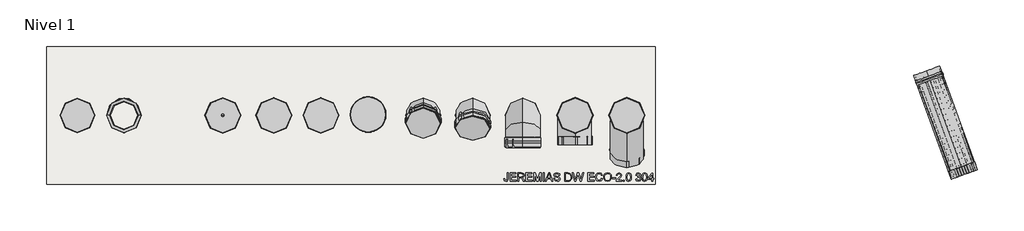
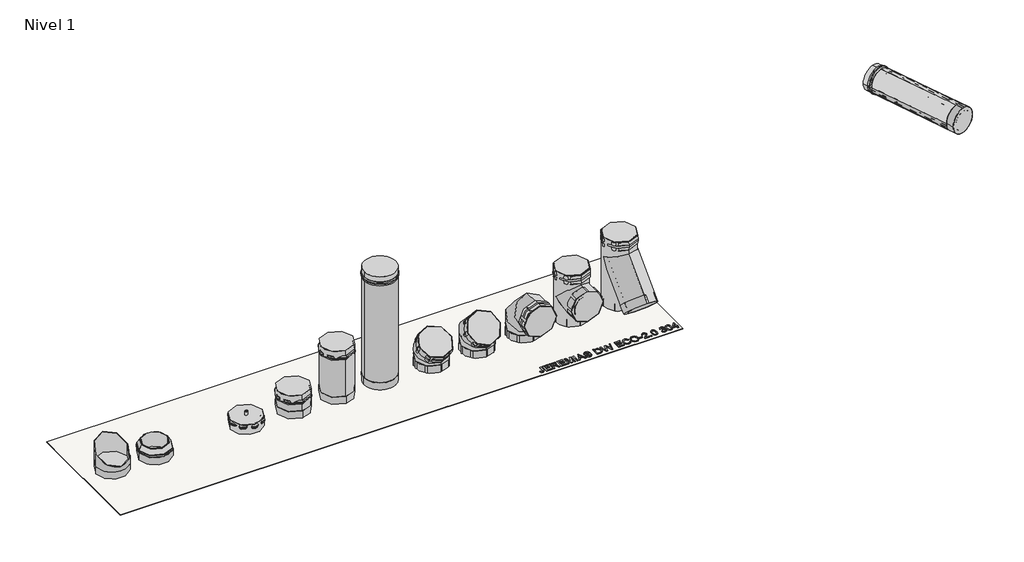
# One storey, incomplete: 24 pipe fittings, 6 valves, 1 pipe segment, 1 proxy, 1 slab.
"""IFC4 building model written with IfcOpenShell, lengths in millimetres."""

from ifc_helpers import new_model, si_unit, point, frame, frame_2d, origin, origin_with_axes, place, context, project, spatial, polyline, circle_curve, trimmed, segment, composite_curve, outline, extrude, transform, mapped, element, save
from components import pipe_fitting_660_6ef6b7b5, generic_e4afd2ad, generic_6cb5bec8, generic_9a809b7e, generic_094d80ac, generic_9bd3fc94, generic_511fdfb4, generic_217080a0, generic_b223704b, generic_ef8c256f, generic_2_eab2cc1d, generic_3_69cca52d, inner_tee_e0705f29, inner_tee_3f265fad, innerelbow_2_ab31b819, innerelbow_2_78ffe8cd, innerelbow_2_19a0c524, innerlength_2873572f, innerlength_3c8baf08, innerlength_c7eef2e4, innerlength_a647f86e, innerlength_2c715587, joint_seal_ffcbe19e, joint_seal_4c32b900

model = new_model("IFC4")

# Units and contexts
model_context = context("Model", 3, world=origin())
ifc_project = project(units=[si_unit("LENGTHUNIT", "METRE", prefix="MILLI")], contexts=[model_context])

# Site, building, storey
site = spatial("IfcSite", under=ifc_project)
building = spatial("IfcBuilding", under=site)
storey = spatial("IfcBuildingStorey", under=building, Name="Nivel 1", Elevation=0.0)

# Proxy
placement = place(None, origin())
element("IfcBuildingElementProxy", 1, Name="600mm Arial", ObjectType="600mm Arial", at=placement, inside=storey, context=model_context, shape_type="SweptSolid", body=[
    extrude(outline(polyline([(-483.9097151, 1447.114897), (-476.3754919, 1448.0861055), (-473.8003179, 1439.1833612), (-467.443317, 1436.7847706), (-462.2856115, 1438.145934), (-459.2984096, 1441.8541845), (-458.4817116, 1449.322189), (-458.4817116, 1490.4661113), (-450.9474884, 1490.4661113), (-450.9474884, 1449.4546265), (-452.7648254, 1437.7486214), (-458.5332151, 1431.4284087), (-467.7964837, 1429.2505473), (-479.8777285, 1433.7460653), (-483.9097151, 1447.114897)])), origin_with_axes(), (0.0, 0.0, 1.0), 5.0),
    extrude(outline(polyline([(-437.7625977, 1430.1923252), (-437.7625977, 1490.4661113), (-394.4408139, 1490.4661113), (-394.4408139, 1482.9318881), (-430.2283744, 1482.9318881), (-430.2283744, 1465.0381078), (-396.3243697, 1465.0381078), (-396.3243697, 1457.5038846), (-430.2283744, 1457.5038846), (-430.2283744, 1437.7265485), (-393.499036, 1437.7265485), (-393.499036, 1430.1923252), (-437.7625977, 1430.1923252)])), origin_with_axes(), (0.0, 0.0, 1.0), 5.0),
    extrude(outline(polyline([(-382.1977011, 1430.1923252), (-382.1977011, 1490.4661113), (-356.2252322, 1490.4661113), (-344.1660604, 1488.8400729), (-337.5736151, 1483.0863985), (-335.1088057, 1473.9702827), (-339.1922959, 1463.1104062), (-351.8106483, 1457.5038846), (-347.5285019, 1454.2812383), (-341.4216608, 1446.5262858), (-331.3711246, 1430.1923252), (-340.1267161, 1430.1923252), (-347.9699603, 1442.6855978), (-353.635343, 1450.955585), (-357.6158262, 1454.8624918), (-361.1989968, 1456.2972316), (-365.5694349, 1456.5621066), (-374.6634778, 1456.5621066), (-374.6634778, 1430.1923252), (-382.1977011, 1430.1923252)]), holes=[polyline([(-374.6634778, 1464.0963299), (-357.7997672, 1464.0963299), (-349.1986861, 1465.1631877), (-344.3132132, 1468.5771326), (-342.643029, 1473.6906923), (-345.8288871, 1480.3272835), (-355.9014961, 1482.9318881), (-374.6634778, 1482.9318881), (-374.6634778, 1464.0963299)])]), origin_with_axes(), (0.0, 0.0, 1.0), 5.0),
    extrude(outline(polyline([(-321.923915, 1430.1923252), (-321.923915, 1490.4661113), (-278.6021313, 1490.4661113), (-278.6021313, 1482.9318881), (-314.3896917, 1482.9318881), (-314.3896917, 1465.0381078), (-280.4856871, 1465.0381078), (-280.4856871, 1457.5038846), (-314.3896917, 1457.5038846), (-314.3896917, 1437.7265485), (-277.6603534, 1437.7265485), (-277.6603534, 1430.1923252), (-321.923915, 1430.1923252)])), origin_with_axes(), (0.0, 0.0, 1.0), 5.0),
    extrude(outline(polyline([(-266.3590185, 1430.1923252), (-266.3590185, 1490.4661113), (-253.3948569, 1490.4661113), (-241.0634525, 1447.9830985), (-238.5765702, 1439.1097848), (-235.883674, 1448.7188625), (-223.7582834, 1490.4661113), (-210.7941219, 1490.4661113), (-210.7941219, 1430.1923252), (-218.3283452, 1430.1923252), (-218.3283452, 1482.9318881), (-233.4703681, 1430.1923252), (-243.6827723, 1430.1923252), (-258.8247952, 1482.9318881), (-258.8247952, 1430.1923252), (-266.3590185, 1430.1923252)])), origin_with_axes(), (0.0, 0.0, 1.0), 5.0),
    extrude(outline(polyline([(-196.6674533, 1430.1923252), (-196.6674533, 1490.4661113), (-189.13323, 1490.4661113), (-189.13323, 1430.1923252), (-196.6674533, 1430.1923252)])), origin_with_axes(), (0.0, 0.0, 1.0), 5.0),
    extrude(outline(polyline([(-181.083972, 1430.1923252), (-157.0244895, 1490.4661113), (-150.6086275, 1490.4661113), (-126.549145, 1430.1923252), (-134.5101114, 1430.1923252), (-141.4115776, 1449.0278834), (-166.2362547, 1449.0278834), (-173.1230056, 1430.1923252), (-181.083972, 1430.1923252)]), holes=[polyline([(-163.469782, 1456.5621066), (-144.1633349, 1456.5621066), (-149.5932732, 1471.3803934), (-153.8165585, 1482.9318881), (-157.5689548, 1472.675338), (-163.469782, 1456.5621066)])]), origin_with_axes(), (0.0, 0.0, 1.0), 5.0),
    extrude(outline(polyline([(-121.3252207, 1450.9114392), (-113.7909974, 1450.9114392), (-111.3629763, 1443.3698583), (-105.4327185, 1438.6021076), (-96.3975367, 1436.7847706), (-88.524862, 1438.1606492), (-83.4407328, 1441.9424762), (-81.7705486, 1446.9971748), (-83.0213473, 1451.6987067), (-88.1422647, 1455.1200092), (-99.1125058, 1457.9968464), (-110.9215179, 1461.7124546), (-117.3300222, 1467.3189762), (-119.4416649, 1474.8090536), (-116.8297027, 1483.3365583), (-109.1998301, 1489.3551077), (-98.0309327, 1491.4078892), (-86.1115561, 1489.2594584), (-78.165305, 1482.9466033), (-75.1781032, 1473.514109), (-82.7123265, 1473.514109), (-86.9797576, 1481.2543462), (-97.7366272, 1483.873666), (-108.5229272, 1481.2837767), (-111.9074416, 1475.0297828), (-109.508851, 1469.8058585), (-97.2068771, 1465.5972884), (-83.8748336, 1461.8154615), (-76.5834124, 1455.7086204), (-74.2363253, 1447.1884734), (-76.9365791, 1438.1753645), (-84.7062469, 1431.5976345), (-96.1032311, 1429.2505473), (-109.5603545, 1431.7815755), (-118.0731438, 1439.4040904), (-121.3252207, 1450.9114392)])), origin_with_axes(), (0.0, 0.0, 1.0), 5.0),
    extrude(outline(polyline([(-39.3905427, 1430.1923252), (-39.3905427, 1490.4661113), (-18.5978523, 1490.4661113), (-7.8409828, 1489.5979098), (1.0176156, 1485.2863328), (8.1545263, 1474.985637), (10.5236864, 1460.6529544), (8.9197209, 1448.4907757), (4.7994425, 1439.7131113), (-0.7040721, 1434.2463848), (-7.9072016, 1431.2223948), (-17.5972133, 1430.1923252), (-39.3905427, 1430.1923252)]), holes=[polyline([(-31.8563195, 1437.7265485), (-18.5242759, 1437.7265485), (-8.8269066, 1438.8154792), (-3.2351002, 1441.8909727), (1.3487094, 1449.3736925), (2.9894631, 1460.7706767), (-0.2258255, 1475.0444981), (-8.0469967, 1481.7252351), (-18.7302899, 1482.9318881), (-31.8563195, 1482.9318881), (-31.8563195, 1437.7265485)])]), origin_with_axes(), (0.0, 0.0, 1.0), 5.0),
    extrude(outline(polyline([(31.6695435, 1430.1923252), (15.2325759, 1490.4661113), (23.0022437, 1490.4661113), (32.537745, 1450.8525781), (35.4808009, 1438.6241806), (38.6298708, 1449.4399112), (50.578678, 1490.4661113), (61.777006, 1490.4661113), (70.459021, 1460.7265308), (76.9190289, 1438.6241806), (79.7737932, 1450.4994114), (89.3975862, 1490.4661113), (97.1672539, 1490.4661113), (80.7155711, 1430.1923252), (72.666313, 1430.1923252), (58.2159082, 1476.6926094), (56.1999149, 1483.1820478), (53.9337618, 1475.3682342), (40.7635864, 1430.1923252), (31.6695435, 1430.1923252)])), origin_with_axes(), (0.0, 0.0, 1.0), 5.0),
    extrude(outline(polyline([(128.2459248, 1430.1923252), (128.2459248, 1490.4661113), (171.5677086, 1490.4661113), (171.5677086, 1482.9318881), (135.7801481, 1482.9318881), (135.7801481, 1465.0381078), (169.6841528, 1465.0381078), (169.6841528, 1457.5038846), (135.7801481, 1457.5038846), (135.7801481, 1437.7265485), (172.5094865, 1437.7265485), (172.5094865, 1430.1923252), (128.2459248, 1430.1923252)])), origin_with_axes(), (0.0, 0.0, 1.0), 5.0),
    extrude(outline(polyline([(226.1908272, 1451.6177726), (233.7250505, 1449.6753557), (224.7928757, 1434.4818293), (209.0180957, 1429.2505473), (193.3389651, 1433.2089576), (184.1419152, 1444.6721606), (180.9854877, 1460.7853919), (184.553943, 1477.1634984), (194.7001285, 1487.7805728), (209.1799638, 1491.4078892), (224.2704832, 1486.713715), (232.7832726, 1473.4993937), (225.2490493, 1471.7041296), (219.0686318, 1480.9673982), (208.8856582, 1483.873666), (197.0987191, 1480.6510197), (190.440055, 1471.9984352), (188.5197109, 1460.8001072), (190.7932217, 1447.8212304), (197.8712713, 1439.5291703), (208.2676164, 1436.7847706), (219.7970382, 1440.5224517), (226.1908272, 1451.6177726)])), origin_with_axes(), (0.0, 0.0, 1.0), 5.0),
    extrude(outline(polyline([(241.2592738, 1459.5345932), (243.2679095, 1472.8629579), (249.2938165, 1482.9466033), (258.4945452, 1489.2925678), (270.0276458, 1491.4078892), (285.0225159, 1487.4347637), (295.2054895, 1476.354158), (298.7077261, 1460.2262113), (295.0215485, 1443.8775355), (284.5736999, 1432.9587978), (269.9834999, 1429.2505473), (254.8267617, 1433.3487527), (244.7026492, 1444.5323654), (241.2592738, 1459.5345932)]), holes=[polyline([(248.793497, 1459.4610168), (250.2999738, 1450.0322012), (254.8194041, 1442.8474659), (261.6123451, 1438.3004444), (269.9393541, 1436.7847706), (278.3877641, 1438.3151597), (285.1917416, 1442.906327), (289.6780626, 1450.3117915), (291.1735029, 1460.2850724), (288.6130442, 1472.7194839), (281.1303244, 1480.9526829), (270.0717916, 1483.873666), (255.0769215, 1478.2450714), (250.3643531, 1470.7347605), (248.793497, 1459.4610168)])]), origin_with_axes(), (0.0, 0.0, 1.0), 5.0),
    extrude(outline(polyline([(304.3583936, 1448.0861055), (304.3583936, 1455.6203287), (327.9028413, 1455.6203287), (327.9028413, 1448.0861055), (304.3583936, 1448.0861055)])), origin_with_axes(), (0.0, 0.0, 1.0), 5.0),
    extrude(outline(polyline([(373.1081808, 1437.7265485), (373.1081808, 1430.1923252), (333.5535087, 1430.1923252), (334.3628491, 1435.386819), (338.9393011, 1443.3845736), (348.3717955, 1452.1180921), (361.3801028, 1464.6702258), (364.6321797, 1473.2050881), (361.5640438, 1480.113912), (353.551574, 1482.9318881), (345.2006527, 1480.1801307), (342.0295099, 1472.5723311), (334.4952866, 1473.514109), (340.2710339, 1486.1251038), (353.7134421, 1490.4661113), (367.199996, 1485.6394995), (372.1664029, 1473.6612618), (370.8273125, 1466.5169934), (366.3759403, 1459.129923), (355.5822826, 1448.8071542), (346.9149828, 1441.5598789), (343.5157531, 1437.7265485), (373.1081808, 1437.7265485)])), origin_with_axes(), (0.0, 0.0, 1.0), 5.0),
    extrude(outline(polyline([(384.4095157, 1430.1923252), (384.4095157, 1437.7265485), (391.943739, 1437.7265485), (391.943739, 1430.1923252), (384.4095157, 1430.1923252)])), origin_with_axes(), (0.0, 0.0, 1.0), 5.0),
    extrude(outline(polyline([(404.1868518, 1459.843614), (406.4015014, 1477.1855713), (412.9792315, 1487.1846039), (423.9641878, 1490.4661113), (432.7639252, 1488.5236944), (438.8413357, 1482.9245304), (442.3730029, 1474.0070709), (443.7415239, 1459.843614), (441.5489472, 1442.5752332), (434.9932901, 1432.5541276), (423.9641878, 1429.2505473), (416.135659, 1430.6852871), (410.190686, 1434.9895064), (405.6878103, 1445.1835165), (404.1868518, 1459.843614)]), holes=[polyline([(411.7210751, 1459.8583293), (415.2527422, 1441.147851), (423.9641878, 1436.7847706), (432.6756335, 1441.1625663), (436.2073006, 1459.8583293), (432.7933557, 1478.355436), (423.8758962, 1482.9318881), (415.3704644, 1478.8999014), (411.7210751, 1459.8583293)])]), origin_with_axes(), (0.0, 0.0, 1.0), 5.0),
    extrude(outline(polyline([(473.878417, 1446.2025497), (481.4126402, 1447.1443276), (485.5697068, 1439.2127918), (493.3467321, 1436.7847706), (502.4996362, 1440.1251391), (505.8988658, 1448.3951264), (502.5290667, 1456.186867), (493.9647739, 1459.2697181), (488.6819884, 1458.4456625), (489.5207594, 1465.9798857), (499.2769899, 1468.0547402), (503.0735321, 1474.7060466), (500.3217748, 1480.5995162), (493.2290099, 1482.9318881), (486.0479534, 1480.5774433), (482.3544181, 1473.514109), (474.8201949, 1474.4558869), (480.9858971, 1486.2722566), (492.9641349, 1490.4661113), (502.0508201, 1488.3986145), (508.407821, 1482.7479471), (510.6077554, 1475.147505), (508.5181856, 1468.201893), (502.3377681, 1463.2134131), (510.5488942, 1458.0630652), (513.4330891, 1448.2626888), (507.6646994, 1434.7834925), (493.0818571, 1429.2505473), (479.8675358, 1433.9741521), (473.878417, 1446.2025497)])), origin_with_axes(), (0.0, 0.0, 1.0), 5.0),
    extrude(outline(polyline([(520.0255344, 1459.843614), (522.240184, 1477.1855713), (528.8179141, 1487.1846039), (539.8028705, 1490.4661113), (548.6026078, 1488.5236944), (554.6800184, 1482.9245304), (558.2116855, 1474.0070709), (559.5802066, 1459.843614), (557.3876299, 1442.5752332), (550.8319727, 1432.5541276), (539.8028705, 1429.2505473), (531.9743416, 1430.6852871), (526.0293686, 1434.9895064), (521.526493, 1445.1835165), (520.0255344, 1459.843614)]), holes=[polyline([(527.5597577, 1459.8583293), (531.0914248, 1441.147851), (539.8028705, 1436.7847706), (548.5143161, 1441.1625663), (552.0459833, 1459.8583293), (548.6320384, 1478.355436), (539.7145788, 1482.9318881), (531.2091471, 1478.8999014), (527.5597577, 1459.8583293)])]), origin_with_axes(), (0.0, 0.0, 1.0), 5.0),
    extrude(outline(polyline([(590.6588775, 1430.1923252), (590.6588775, 1444.3189938), (563.3473182, 1444.3189938), (563.3473182, 1451.8532171), (592.5424333, 1489.5243334), (598.1931008, 1489.5243334), (598.1931008, 1451.8532171), (605.727324, 1451.8532171), (605.727324, 1444.3189938), (598.1931008, 1444.3189938), (598.1931008, 1430.1923252), (590.6588775, 1430.1923252)]), holes=[polyline([(590.6588775, 1451.8532171), (590.6588775, 1475.1327898), (572.6179445, 1451.8532171), (590.6588775, 1451.8532171)])]), origin_with_axes(), (0.0, 0.0, 1.0), 5.0),
])

# Pipe fittings
pipe_fitting_660_shape = pipe_fitting_660_6ef6b7b5(model_context)
element("IfcPipeFitting", 2, ObjectType="CADS_Jeremias_HorizontalTerminalWithGrid_Socket : 660", at=placement, inside=storey, context=model_context, shape_type="MappedRepresentation", body=[
    mapped(pipe_fitting_660_shape, transform((-3578.0375205, 1907.6764061, 60.0), x_axis=(0.0, 0.0, 1.0), y_axis=(1.0, 0.0, 0.0), z_axis=(0.0, 1.0, 0.0))),
])
generic_shape = generic_e4afd2ad(model_context)
element("IfcPipeFitting", 3, ObjectType="CADS_Jeremias_Length_Socket : Generic", at=placement, inside=storey, context=model_context, shape_type="MappedRepresentation", body=[
    mapped(generic_shape, transform((2880.748552, 1423.1702093, 901.4449459), x_axis=(-0.342020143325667, 0.939692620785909, 0.0), y_axis=(-0.939692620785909, -0.342020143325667, 0.0), z_axis=(0.0, 0.0, 1.0))),
])
element("IfcPipeFitting", 4, ObjectType="CADS_Jeremias_Length_Socket : Generic", at=placement, inside=storey, context=model_context, shape_type="MappedRepresentation", body=[
    mapped(generic_shape, transform((2880.748552, 1423.1702093, 901.4449459), x_axis=(-0.342020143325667, 0.939692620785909, 0.0), y_axis=(-0.939692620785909, -0.342020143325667, 0.0), z_axis=(0.0, 0.0, 1.0))),
])
generic_2_shape = generic_6cb5bec8(model_context)
element("IfcPipeFitting", 5, ObjectType="CADS_Jeremias_Length_Socket : Generic", at=placement, inside=storey, context=model_context, shape_type="MappedRepresentation", body=[
    mapped(generic_2_shape, transform((-1810.7973729, 1907.6764061, -60.0), x_axis=(0.0, 0.0, 1.0), y_axis=(0.0, 1.0, 0.0), z_axis=(-1.0, 0.0, 0.0))),
])
generic_3_shape = generic_9a809b7e(model_context)
element("IfcPipeFitting", 6, ObjectType="CADS_Jeremias_Length_Socket : Generic", at=placement, inside=storey, context=model_context, shape_type="MappedRepresentation", body=[
    mapped(generic_3_shape, transform((-1467.9683054, 1914.1121678, -60.0), x_axis=(0.0, 0.0, 1.0), y_axis=(1.0, 0.0, 0.0), z_axis=(0.0, 1.0, 0.0))),
])
generic_4_shape = generic_094d80ac(model_context)
element("IfcPipeFitting", 7, ObjectType="CADS_Jeremias_Length_Socket : Generic", at=placement, inside=storey, context=model_context, shape_type="MappedRepresentation", body=[
    mapped(generic_4_shape, transform((-2152.3224564, 1907.6764061, -60.0), x_axis=(0.0, 0.0, 1.0), y_axis=(0.0, 1.0, 0.0), z_axis=(-1.0, 0.0, 0.0))),
])
generic_5_shape = generic_9bd3fc94(model_context)
element("IfcPipeFitting", 8, ObjectType="CADS_Jeremias_Elbow_Socket1 : Generic", at=placement, inside=storey, context=model_context, shape_type="MappedRepresentation", body=[
    mapped(generic_5_shape, transform((-708.7750658, 1907.6764061, 131.7766953), x_axis=(0.0, 0.0, 1.0), y_axis=(0.0, -1.0, 0.0), z_axis=(1.0, 0.0, 0.0))),
])
generic_6_shape = generic_511fdfb4(model_context)
element("IfcPipeFitting", 9, ObjectType="CADS_Jeremias_Elbow_Socket1 : Generic", at=placement, inside=storey, context=model_context, shape_type="MappedRepresentation", body=[
    mapped(generic_6_shape, transform((-1067.9851989, 1907.6764061, 113.4936491), x_axis=(0.0, 0.0, 1.0), y_axis=(0.0, -1.0, 0.0), z_axis=(1.0, 0.0, 0.0))),
])
generic_7_shape = generic_217080a0(model_context)
element("IfcPipeFitting", 10, ObjectType="CADS_Jeremias_Tee1 : Generic", at=placement, inside=storey, context=model_context, shape_type="MappedRepresentation", body=[
    mapped(generic_7_shape, transform((409.8112209, 1907.6764061, 411.7766953), x_axis=(0.0, 0.0, 1.0), y_axis=(0.0, 1.0, 0.0), z_axis=(-1.0, 0.0, 0.0))),
])
generic_8_shape = generic_b223704b(model_context)
element("IfcPipeFitting", 11, ObjectType="CADS_Jeremias_TeeCapWithDrain_Socket : Generic", at=placement, inside=storey, context=model_context, shape_type="MappedRepresentation", body=[
    mapped(generic_8_shape, transform((-2522.4031159, 1907.6764061, 1.559676), x_axis=(0.0, 0.0, 1.0), y_axis=(-1.0, 0.0, 0.0), z_axis=(0.0, -1.0, 0.0))),
])
generic_9_shape = generic_ef8c256f(model_context)
element("IfcPipeFitting", 12, ObjectType="CADS_Jeremias_TopStub_Socket : Generic", at=placement, inside=storey, context=model_context, shape_type="MappedRepresentation", body=[
    mapped(generic_9_shape, transform((-3240.6497047, 1907.6764061, 60.0), x_axis=(0.0, 0.0, 1.0), y_axis=(1.0, 0.0, 0.0), z_axis=(0.0, 1.0, 0.0))),
])
generic_2_2_shape = generic_2_eab2cc1d(model_context)
element("IfcPipeFitting", 13, ObjectType="CADS_Jeremias_Tee1 : Generic 2", at=placement, inside=storey, context=model_context, shape_type="MappedRepresentation", body=[
    mapped(generic_2_2_shape, transform((34.0102676, 1907.6764061, 213.0), x_axis=(0.0, 0.0, 1.0), y_axis=(0.0, 1.0, 0.0), z_axis=(-1.0, 0.0, 0.0))),
])
generic_3_2_shape = generic_3_69cca52d(model_context)
element("IfcPipeFitting", 14, ObjectType="CADS_Jeremias_Elbow_Socket1 : Generic 3", at=placement, inside=storey, context=model_context, shape_type="MappedRepresentation", body=[
    mapped(generic_3_2_shape, transform((-345.0722887, 1907.6764061, 233.2842712), x_axis=(0.0, 0.0, 1.0), y_axis=(0.0, -1.0, 0.0), z_axis=(1.0, 0.0, 0.0))),
])
inner_tee_shape = inner_tee_e0705f29(model_context)
element("IfcPipeFitting", 15, ObjectType="CADS_Jeremias_InnerTee : Inner Tee", at=placement, inside=storey, context=model_context, shape_type="MappedRepresentation", body=[
    mapped(inner_tee_shape, transform((34.0102676, 1907.6764061, 213.0), x_axis=(0.0, 0.0, 1.0), y_axis=(0.0, 1.0, 0.0), z_axis=(-1.0, 0.0, 0.0))),
])
inner_tee_2_shape = inner_tee_3f265fad(model_context)
element("IfcPipeFitting", 16, ObjectType="CADS_Jeremias_InnerTee : Inner Tee", at=placement, inside=storey, context=model_context, shape_type="MappedRepresentation", body=[
    mapped(inner_tee_2_shape, transform((409.8112209, 1907.6764061, 411.7766953), x_axis=(0.0, 0.0, 1.0), y_axis=(0.0, 1.0, 0.0), z_axis=(-1.0, 0.0, 0.0))),
])
innerelbow_2_shape = innerelbow_2_ab31b819(model_context)
element("IfcPipeFitting", 17, ObjectType="CADS_Jeremias_InnerElbowSocket1 : InnerElbow 2", at=placement, inside=storey, context=model_context, shape_type="MappedRepresentation", body=[
    mapped(innerelbow_2_shape, transform((-345.0722887, 1907.6764061, 233.2842712), x_axis=(0.0, 0.0, 1.0), y_axis=(0.0, -1.0, 0.0), z_axis=(1.0, 0.0, 0.0))),
])
innerelbow_2_2_shape = innerelbow_2_78ffe8cd(model_context)
element("IfcPipeFitting", 18, ObjectType="CADS_Jeremias_InnerElbowSocket1 : InnerElbow 2", at=placement, inside=storey, context=model_context, shape_type="MappedRepresentation", body=[
    mapped(innerelbow_2_2_shape, transform((-708.7750658, 1907.6764061, 131.7766953), x_axis=(0.0, 0.0, 1.0), y_axis=(0.0, -1.0, 0.0), z_axis=(1.0, 0.0, 0.0))),
])
innerelbow_2_3_shape = innerelbow_2_19a0c524(model_context)
element("IfcPipeFitting", 19, ObjectType="CADS_Jeremias_InnerElbowSocket1 : InnerElbow 2", at=placement, inside=storey, context=model_context, shape_type="MappedRepresentation", body=[
    mapped(innerelbow_2_3_shape, transform((-1067.9851989, 1907.6764061, 113.4936491), x_axis=(0.0, 0.0, 1.0), y_axis=(0.0, -1.0, 0.0), z_axis=(1.0, 0.0, 0.0))),
])
innerlength_shape = innerlength_2873572f(model_context)
element("IfcPipeFitting", 20, ObjectType="CADS_Jeremias_InnerLength : InnerLength", at=placement, inside=storey, context=model_context, shape_type="MappedRepresentation", body=[
    mapped(innerlength_shape, transform((-1810.7973729, 1907.6764061, 0.0), x_axis=(0.0, 0.0, 1.0), y_axis=(0.0, 1.0, 0.0), z_axis=(-1.0, 0.0, 0.0))),
])
innerlength_2_shape = innerlength_3c8baf08(model_context)
element("IfcPipeFitting", 21, ObjectType="CADS_Jeremias_InnerLength : InnerLength", at=placement, inside=storey, context=model_context, shape_type="MappedRepresentation", body=[
    mapped(innerlength_2_shape, transform((-1467.9683054, 1914.1121678, 0.0), x_axis=(0.0, 0.0, 1.0), y_axis=(1.0, 0.0, 0.0), z_axis=(0.0, 1.0, 0.0))),
])
innerlength_3_shape = innerlength_c7eef2e4(model_context)
element("IfcPipeFitting", 22, ObjectType="CADS_Jeremias_InnerLength : InnerLength", at=placement, inside=storey, context=model_context, shape_type="MappedRepresentation", body=[
    mapped(innerlength_3_shape, transform((-2152.3224564, 1907.6764061, 0.0), x_axis=(0.0, 0.0, 1.0), y_axis=(0.0, 1.0, 0.0), z_axis=(-1.0, 0.0, 0.0))),
])
innerlength_4_shape = innerlength_a647f86e(model_context)
element("IfcPipeFitting", 23, ObjectType="CADS_Jeremias_InnerLength : InnerLength", at=placement, inside=storey, context=model_context, shape_type="MappedRepresentation", body=[
    mapped(innerlength_4_shape, transform((-2522.4031159, 1907.6764061, 61.559676), x_axis=(0.0, 0.0, 1.0), y_axis=(-1.0, 0.0, 0.0), z_axis=(0.0, -1.0, 0.0))),
])
innerlength_5_shape = innerlength_2c715587(model_context)
element("IfcPipeFitting", 24, ObjectType="CADS_Jeremias_InnerLength : InnerLength", at=placement, inside=storey, context=model_context, shape_type="MappedRepresentation", body=[
    mapped(innerlength_5_shape, transform((2860.2273434, 1479.5517665, 901.4449459), x_axis=(-0.342020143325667, 0.939692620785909, 0.0), y_axis=(-0.939692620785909, -0.342020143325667, 0.0), z_axis=(0.0, 0.0, 1.0))),
])
element("IfcPipeFitting", 25, ObjectType="CADS_Jeremias_InnerLength : InnerLength", at=placement, inside=storey, context=model_context, shape_type="MappedRepresentation", body=[
    mapped(innerlength_5_shape, transform((2860.2273434, 1479.5517665, 901.4449459), x_axis=(-0.342020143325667, 0.939692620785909, 0.0), y_axis=(-0.939692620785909, -0.342020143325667, 0.0), z_axis=(0.0, 0.0, 1.0))),
])

# Pipe segment
element("IfcPipeSegment", 26, ObjectType="Jeremias DW-ECO 2.0+660+NJS", at=placement, inside=storey, context=model_context, shape_type="SweptSolid", body=[
    extrude(outline(composite_curve([segment(trimmed(circle_curve(frame_2d((0.0, 100.0)), 100.0), [point((100.0, 100.0))], [point((0.0, 0.0))], False, "CARTESIAN"), True, "CONTINUOUS"), segment(trimmed(circle_curve(frame_2d((0.0, 100.0)), 100.0), [point((0.0, 0.0))], [point((-100.0, 100.0))], False, "CARTESIAN"), True, "CONTINUOUS"), segment(trimmed(circle_curve(frame_2d((0.0, 100.0)), 100.0), [point((-100.0, 100.0))], [point((0.0, 200.0))], False, "CARTESIAN"), True, "CONTINUOUS"), segment(trimmed(circle_curve(frame_2d((0.0, 100.0)), 100.0), [point((0.0, 200.0))], [point((100.0, 100.0))], False, "CARTESIAN"), True, "CONTINUOUS")], self_intersect=False)), frame((2860.2273434, 1479.5517665, 1001.4449459), z_axis=(-0.3420201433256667, 0.9396926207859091, 0.0), x_axis=(0.9396926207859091, 0.3420201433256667, 0.0)), (0.0, 0.0, 1.0), 800.0),
])

# Slab
element("IfcSlab", 27, ObjectType="Generic 150mm", at=placement, inside=storey, context=model_context, shape_type="SweptSolid", body=[
    extrude(outline(polyline([(618.0783465, 2407.6764061), (618.0783465, 1407.6764061), (-3801.9216535, 1407.6764061), (-3801.9216535, 2407.6764061), (618.0783465, 2407.6764061)])), frame((0.0, 0.0, -5.0), z_axis=(0.0, 0.0, 1.0), x_axis=(1.0, 0.0, 0.0)), (0.0, 0.0, 1.0), 5.0),
])

# Valves
joint_seal_shape = joint_seal_ffcbe19e(model_context)
element("IfcValve", 28, ObjectType="CADS_Jeremias_JointSeal : Joint Seal", at=placement, inside=storey, context=model_context, shape_type="MappedRepresentation", body=[
    mapped(joint_seal_shape, transform((-2152.3224564, 1907.6764061, 190.0), x_axis=(0.0, 0.0, -1.0), y_axis=(0.0, -1.0, 0.0), z_axis=(-1.0, 0.0, 0.0))),
])
element("IfcValve", 29, ObjectType="CADS_Jeremias_JointSeal : Joint Seal", at=placement, inside=storey, context=model_context, shape_type="MappedRepresentation", body=[
    mapped(joint_seal_shape, transform((-1467.9683054, 1914.1121678, 940.0), x_axis=(0.0, 0.0, -1.0), y_axis=(-1.0, 0.0, 0.0), z_axis=(0.0, 1.0, 0.0))),
])
element("IfcValve", 30, ObjectType="CADS_Jeremias_JointSeal : Joint Seal", at=placement, inside=storey, context=model_context, shape_type="MappedRepresentation", body=[
    mapped(joint_seal_shape, transform((-1810.7973729, 1907.6764061, 440.0), x_axis=(0.0, 0.0, -1.0), y_axis=(0.0, -1.0, 0.0), z_axis=(-1.0, 0.0, 0.0))),
])
element("IfcValve", 31, ObjectType="CADS_Jeremias_JointSeal : Joint Seal", at=placement, inside=storey, context=model_context, shape_type="MappedRepresentation", body=[
    mapped(joint_seal_shape, transform((-2522.4031159, 1907.6764061, 1.559676), x_axis=(0.0, 0.0, 1.0), y_axis=(-1.0, 0.0, 0.0), z_axis=(0.0, -1.0, 0.0))),
])
joint_seal_2_shape = joint_seal_4c32b900(model_context)
element("IfcValve", 32, ObjectType="CADS_Jeremias_JointSeal : Joint Seal", at=placement, inside=storey, context=model_context, shape_type="MappedRepresentation", body=[
    mapped(joint_seal_2_shape, transform((2586.6112287, 2231.3058632, 901.4449459), x_axis=(0.34202014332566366, -0.9396926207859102, 0.0), y_axis=(0.9396926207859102, 0.34202014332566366, 0.0), z_axis=(0.0, 0.0, 1.0))),
])
element("IfcValve", 33, ObjectType="CADS_Jeremias_JointSeal : Joint Seal", at=placement, inside=storey, context=model_context, shape_type="MappedRepresentation", body=[
    mapped(joint_seal_2_shape, transform((2586.6112287, 2231.3058632, 901.4449459), x_axis=(0.34202014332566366, -0.9396926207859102, 0.0), y_axis=(0.9396926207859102, 0.34202014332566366, 0.0), z_axis=(0.0, 0.0, 1.0))),
])

save(model, "model.ifc")
